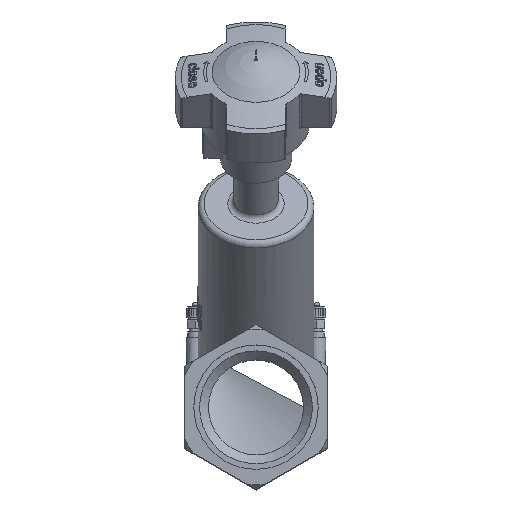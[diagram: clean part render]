
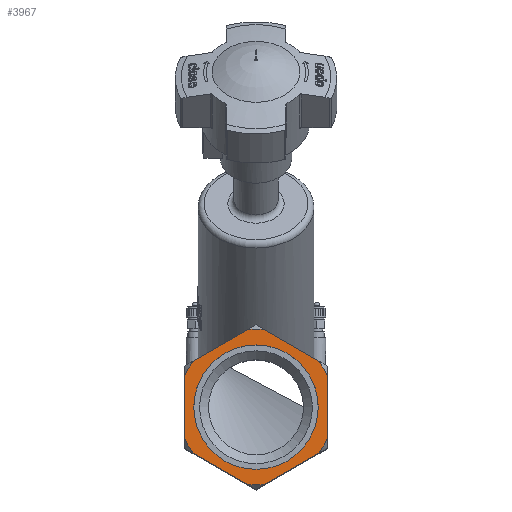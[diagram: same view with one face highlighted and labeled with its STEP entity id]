
A CAD part, top view. The second image highlights one B-rep face of the part: STEP entity #3967.
In plain terms, the highlighted planar face has unit normal (0, 0, 1).
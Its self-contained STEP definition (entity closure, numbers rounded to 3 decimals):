
#3967=ADVANCED_FACE('',(#10129,#10131),#10133,.T.);
#10129=FACE_BOUND('',#10130,.T.);
#10130=EDGE_LOOP('',(#16388,#16389,#16390,#16391,#16392,#16393,#16394,#16395,#16396,
#16397,#16398,#16399));
#10131=FACE_BOUND('',#10132,.T.);
#10132=EDGE_LOOP('',(#16400));
#10133=PLANE('',#10134);
#10134=AXIS2_PLACEMENT_3D('',#10135,#10136,#10137);
#10135=CARTESIAN_POINT('',(0.,0.,57.));
#10136=DIRECTION('',(0.,0.,1.));
#10137=DIRECTION('',(0.,1.,0.));
#16388=ORIENTED_EDGE('',*,*,#19452,.T.);
#16389=ORIENTED_EDGE('',*,*,#19633,.T.);
#16390=ORIENTED_EDGE('',*,*,#19446,.T.);
#16391=ORIENTED_EDGE('',*,*,#19634,.T.);
#16392=ORIENTED_EDGE('',*,*,#19440,.T.);
#16393=ORIENTED_EDGE('',*,*,#19635,.T.);
#16394=ORIENTED_EDGE('',*,*,#19434,.T.);
#16395=ORIENTED_EDGE('',*,*,#19632,.T.);
#16396=ORIENTED_EDGE('',*,*,#19464,.T.);
#16397=ORIENTED_EDGE('',*,*,#19636,.T.);
#16398=ORIENTED_EDGE('',*,*,#19458,.T.);
#16399=ORIENTED_EDGE('',*,*,#19637,.T.);
#16400=ORIENTED_EDGE('',*,*,#19638,.F.);
#19434=EDGE_CURVE('',#22376,#22374,#22377,.T.);
#19440=EDGE_CURVE('',#22386,#22384,#22387,.T.);
#19446=EDGE_CURVE('',#22396,#22394,#22397,.T.);
#19452=EDGE_CURVE('',#22406,#22404,#22407,.T.);
#19458=EDGE_CURVE('',#22416,#22414,#22417,.T.);
#19464=EDGE_CURVE('',#22426,#22424,#22427,.T.);
#19632=EDGE_CURVE('',#22374,#22426,#22694,.T.);
#19633=EDGE_CURVE('',#22404,#22396,#22695,.T.);
#19634=EDGE_CURVE('',#22394,#22386,#22696,.T.);
#19635=EDGE_CURVE('',#22384,#22376,#22697,.T.);
#19636=EDGE_CURVE('',#22424,#22416,#22698,.T.);
#19637=EDGE_CURVE('',#22414,#22406,#22699,.T.);
#19638=EDGE_CURVE('',#22700,#22700,#22701,.T.);
#22374=VERTEX_POINT('',#42822);
#22376=VERTEX_POINT('',#42836);
#22377=LINE('',#42837,#42838);
#22384=VERTEX_POINT('',#42864);
#22386=VERTEX_POINT('',#42874);
#22387=LINE('',#42875,#42876);
#22394=VERTEX_POINT('',#42898);
#22396=VERTEX_POINT('',#42908);
#22397=LINE('',#42909,#42910);
#22404=VERTEX_POINT('',#42932);
#22406=VERTEX_POINT('',#42946);
#22407=LINE('',#42947,#42948);
#22414=VERTEX_POINT('',#42974);
#22416=VERTEX_POINT('',#42984);
#22417=LINE('',#42985,#42986);
#22424=VERTEX_POINT('',#43008);
#22426=VERTEX_POINT('',#43018);
#22427=LINE('',#43019,#43020);
#22694=CIRCLE('',#44841,26.223);
#22695=CIRCLE('',#44845,26.223);
#22696=CIRCLE('',#44849,26.223);
#22697=CIRCLE('',#44853,26.223);
#22698=CIRCLE('',#44857,26.223);
#22699=CIRCLE('',#44861,26.223);
#22700=VERTEX_POINT('',#44865);
#22701=CIRCLE('',#44866,20.955);
#42822=CARTESIAN_POINT('',(-24.,-10.566,57.));
#42836=CARTESIAN_POINT('',(-24.,10.566,57.));
#42837=CARTESIAN_POINT('',(-24.,10.566,57.));
#42838=VECTOR('',#42839,1.);
#42839=DIRECTION('',(0.,-1.,0.));
#42864=CARTESIAN_POINT('',(-21.151,15.502,57.));
#42874=CARTESIAN_POINT('',(-2.849,26.068,57.));
#42875=CARTESIAN_POINT('',(-2.849,26.068,57.));
#42876=VECTOR('',#42877,1.);
#42877=DIRECTION('',(-0.866,-0.5,0.));
#42898=CARTESIAN_POINT('',(2.849,26.068,57.));
#42908=CARTESIAN_POINT('',(21.151,15.502,57.));
#42909=CARTESIAN_POINT('',(21.151,15.502,57.));
#42910=VECTOR('',#42911,1.);
#42911=DIRECTION('',(-0.866,0.5,0.));
#42932=CARTESIAN_POINT('',(24.,10.566,57.));
#42946=CARTESIAN_POINT('',(24.,-10.566,57.));
#42947=CARTESIAN_POINT('',(24.,-10.566,57.));
#42948=VECTOR('',#42949,1.);
#42949=DIRECTION('',(0.,1.,0.));
#42974=CARTESIAN_POINT('',(21.151,-15.502,57.));
#42984=CARTESIAN_POINT('',(2.849,-26.068,57.));
#42985=CARTESIAN_POINT('',(2.849,-26.068,57.));
#42986=VECTOR('',#42987,1.);
#42987=DIRECTION('',(0.866,0.5,0.));
#43008=CARTESIAN_POINT('',(-2.849,-26.068,57.));
#43018=CARTESIAN_POINT('',(-21.151,-15.502,57.));
#43019=CARTESIAN_POINT('',(-21.151,-15.502,57.));
#43020=VECTOR('',#43021,1.);
#43021=DIRECTION('',(0.866,-0.5,0.));
#44841=AXIS2_PLACEMENT_3D('',#44842,#44843,#44844);
#44842=CARTESIAN_POINT('',(0.,0.,57.));
#44843=DIRECTION('',(0.,0.,1.));
#44844=DIRECTION('',(-0.915,-0.403,0.));
#44845=AXIS2_PLACEMENT_3D('',#44846,#44847,#44848);
#44846=CARTESIAN_POINT('',(0.,0.,57.));
#44847=DIRECTION('',(0.,0.,1.));
#44848=DIRECTION('',(0.915,0.403,0.));
#44849=AXIS2_PLACEMENT_3D('',#44850,#44851,#44852);
#44850=CARTESIAN_POINT('',(0.,0.,57.));
#44851=DIRECTION('',(0.,0.,1.));
#44852=DIRECTION('',(0.109,0.994,0.));
#44853=AXIS2_PLACEMENT_3D('',#44854,#44855,#44856);
#44854=CARTESIAN_POINT('',(0.,0.,57.));
#44855=DIRECTION('',(0.,0.,1.));
#44856=DIRECTION('',(-0.807,0.591,0.));
#44857=AXIS2_PLACEMENT_3D('',#44858,#44859,#44860);
#44858=CARTESIAN_POINT('',(0.,0.,57.));
#44859=DIRECTION('',(0.,0.,1.));
#44860=DIRECTION('',(-0.109,-0.994,0.));
#44861=AXIS2_PLACEMENT_3D('',#44862,#44863,#44864);
#44862=CARTESIAN_POINT('',(0.,0.,57.));
#44863=DIRECTION('',(0.,0.,1.));
#44864=DIRECTION('',(0.807,-0.591,0.));
#44865=CARTESIAN_POINT('',(0.,20.955,57.));
#44866=AXIS2_PLACEMENT_3D('',#44867,#44868,#44869);
#44867=CARTESIAN_POINT('',(0.,0.,57.));
#44868=DIRECTION('',(0.,0.,1.));
#44869=DIRECTION('',(0.,1.,0.));
